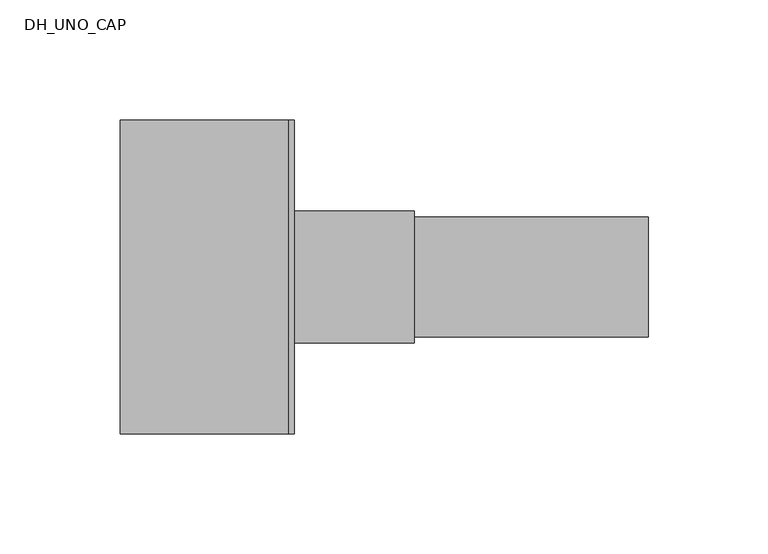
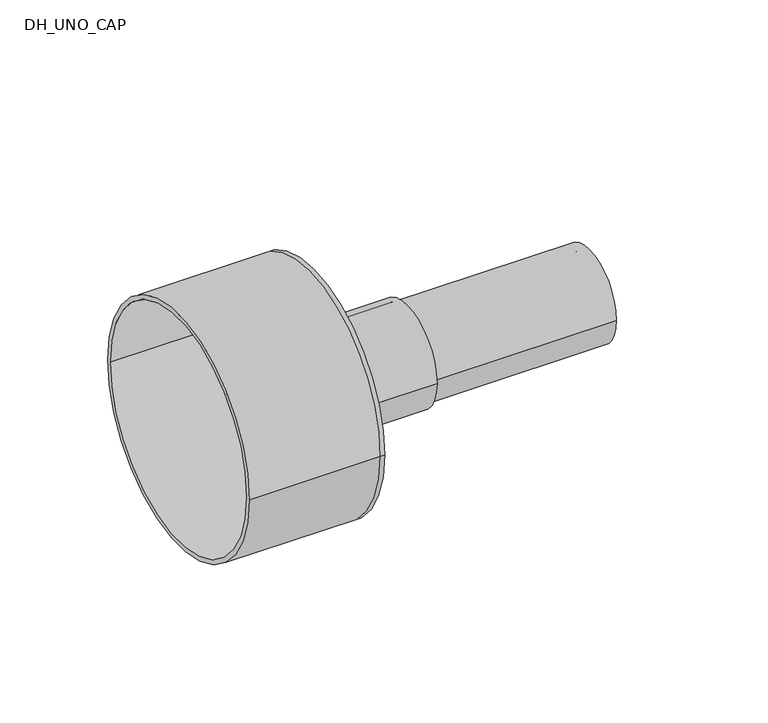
"""IFC4 building model written with IfcOpenShell, lengths in millimetres: pipe fitting geometry, DH_UNO_CAP : RAUTHERMEX UNO + 11 Heating - Rubber Cap."""

from ifc_helpers import new_model, si_unit, point, frame, origin, origin_2d, place, context, project, spatial, polyline, circle_curve, trimmed, segment, composite_curve, outline, extrude, source, transform, mapped, element, save
from ifc_brep_helpers import plane_surface, cylinder_surface, revolved_surface, advanced_brep


def dh_uno_cap_c55762d6(model_context):
    return source(origin(), model_context, "Body", "SolidModel", [
        extrude(outline(composite_curve([segment(trimmed(circle_curve(origin_2d(), 25.0), [point((-25.0, 0.0))], [point((25.0, 0.0))], False, "CARTESIAN"), True, "CONTINUOUS"), segment(trimmed(circle_curve(origin_2d(), 25.0), [point((25.0, 0.0))], [point((-25.0, 0.0))], False, "CARTESIAN"), True, "CONTINUOUS")], self_intersect=False), holes=[composite_curve([segment(trimmed(circle_curve(origin_2d(), 20.4), [point((-20.4, 0.0))], [point((20.4, 0.0))], True, "CARTESIAN"), True, "CONTINUOUS"), segment(trimmed(circle_curve(origin_2d(), 20.4), [point((20.4, 0.0))], [point((-20.4, 0.0))], True, "CARTESIAN"), True, "CONTINUOUS")], self_intersect=False)]), frame((0.0, 0.0, 0.0), z_axis=(1.0, 0.0, 0.0), x_axis=(0.0, 1.0, 0.0)), (0.0, 0.0, 1.0), 150.0),
        advanced_brep(
        [(-70.0, -65.5, 0.0), (-70.0, 65.5, 0.0), (-70.0, -63.0, 0.0), (-70.0, 63.0, 0.0), (0.0, -63.0, 0.0), (0.0, 63.0, 0.0), (0.0, -65.5, 0.0), (0.0, 65.5, 0.0), (0.0, 25.0, 0.0), (0.0, -25.0, 0.0), (2.5, -65.5, 0.0), (2.5, 65.5, 0.0), (2.5, -25.0, 0.0), (2.5, 25.0, 0.0)],
        [
            (0, 1, circle_curve(frame((-70.0, 0.0, 0.0), z_axis=(-1.0, 0.0, 0.0), x_axis=(0.0, 1.0, 0.0)), 65.5)),
            (1, 0, circle_curve(frame((-70.0, 0.0, 0.0), z_axis=(-1.0, 0.0, 0.0), x_axis=(0.0, 1.0, 0.0)), 65.5)),
            (2, 3, circle_curve(frame((-70.0, 0.0, 0.0), z_axis=(1.0, 0.0, 0.0), x_axis=(0.0, 1.0, 0.0)), 63.0)),
            (3, 2, circle_curve(frame((-70.0, 0.0, 0.0), z_axis=(1.0, 0.0, 0.0), x_axis=(0.0, 1.0, 0.0)), 63.0)),
            (2, 4),
            (4, 5, circle_curve(frame((0.0, 0.0, 0.0), z_axis=(1.0, 0.0, 0.0), x_axis=(0.0, 1.0, 0.0)), 63.0)),
            (5, 3),
            (5, 4, circle_curve(frame((0.0, 0.0, 0.0), z_axis=(1.0, 0.0, 0.0), x_axis=(0.0, 1.0, 0.0)), 63.0)),
            (0, 6),
            (6, 7, circle_curve(frame((0.0, 0.0, 0.0), z_axis=(-1.0, 0.0, 0.0), x_axis=(0.0, 1.0, 0.0)), 65.5)),
            (7, 1),
            (7, 6, circle_curve(frame((0.0, 0.0, 0.0), z_axis=(-1.0, 0.0, 0.0), x_axis=(0.0, 1.0, 0.0)), 65.5)),
            (8, 9, circle_curve(frame((0.0, 0.0, 0.0), z_axis=(1.0, 0.0, 0.0), x_axis=(0.0, 1.0, 0.0)), 25.0)),
            (9, 8, circle_curve(frame((0.0, 0.0, 0.0), z_axis=(1.0, 0.0, 0.0), x_axis=(0.0, 1.0, 0.0)), 25.0)),
            (10, 11, circle_curve(frame((2.5, 0.0, 0.0), z_axis=(1.0, 0.0, 0.0), x_axis=(0.0, 1.0, 0.0)), 65.5)),
            (11, 10, circle_curve(frame((2.5, 0.0, 0.0), z_axis=(1.0, 0.0, 0.0), x_axis=(0.0, 1.0, 0.0)), 65.5)),
            (12, 13, circle_curve(frame((2.5, 0.0, 0.0), z_axis=(-1.0, 0.0, 0.0), x_axis=(0.0, 1.0, 0.0)), 25.0)),
            (13, 12, circle_curve(frame((2.5, 0.0, 0.0), z_axis=(-1.0, 0.0, 0.0), x_axis=(0.0, 1.0, 0.0)), 25.0)),
            (11, 7),
            (6, 10),
            (8, 13),
            (12, 9),
        ],
        [
            plane_surface(frame((-70.0, 0.0, 0.0), z_axis=(-1.0, 0.0, 0.0), x_axis=(0.0, 0.0, 1.0))),
            revolved_surface(polyline([(0.0, 63.0, 0.0), (-70.0, 63.0, 0.0)]), (-70.0, 0.0, 0.0), (1.0, 0.0, 0.0)),
            cylinder_surface(frame((-70.0, 0.0, 0.0), z_axis=(-1.0, 0.0, 0.0), x_axis=(0.0, 1.0, 0.0)), 65.5),
            plane_surface(frame((0.0, 0.0, 0.0), z_axis=(-1.0, 0.0, 0.0), x_axis=(0.0, 0.0, 1.0))),
            plane_surface(frame((2.5, 0.0, 0.0), z_axis=(1.0, 0.0, 0.0), x_axis=(0.0, 0.0, 1.0))),
            cylinder_surface(frame((0.0, 0.0, 0.0), z_axis=(-1.0, 0.0, 0.0), x_axis=(0.0, 1.0, 0.0)), 65.5),
            revolved_surface(polyline([(0.0, 25.0, 0.0), (2.5, 25.0, 0.0)]), (0.0, 0.0, 0.0), (-1.0, 0.0, 0.0)),
        ],
        [
            (0, [[1, 2], [3, 4]]),
            (1, [[-3, 5, 6, 7]]),
            (1, [[-4, -7, 8, -5]]),
            (2, [[-1, 9, 10, 11]]),
            (2, [[-2, -11, 12, -9]]),
            (3, [[-6, -8], [13, 14]]),
            (4, [[15, 16], [17, 18]]),
            (5, [[-16, 19, -10, 20]]),
            (5, [[-15, -20, -12, -19]]),
            (6, [[21, -17, 22, -13]]),
            (6, [[-21, -14, -22, -18]]),
        ],
    ),
        extrude(outline(composite_curve([segment(trimmed(circle_curve(origin_2d(), 27.5), [point((-27.5, 0.0))], [point((27.5, 0.0))], False, "CARTESIAN"), True, "CONTINUOUS"), segment(trimmed(circle_curve(origin_2d(), 27.5), [point((27.5, 0.0))], [point((-27.5, 0.0))], False, "CARTESIAN"), True, "CONTINUOUS")], self_intersect=False), holes=[composite_curve([segment(trimmed(circle_curve(origin_2d(), 25.0), [point((-25.0, 0.0))], [point((25.0, 0.0))], True, "CARTESIAN"), True, "CONTINUOUS"), segment(trimmed(circle_curve(origin_2d(), 25.0), [point((25.0, 0.0))], [point((-25.0, 0.0))], True, "CARTESIAN"), True, "CONTINUOUS")], self_intersect=False)]), frame((2.5, 0.0, 0.0), z_axis=(1.0, 0.0, 0.0), x_axis=(0.0, 1.0, 0.0)), (0.0, 0.0, 1.0), 50.0),
    ])


if __name__ == "__main__":
    model = new_model("IFC4")
    model_context = context("Model", 3, world=origin())
    ifc_project = project(units=[si_unit("LENGTHUNIT", "METRE", prefix="MILLI")], contexts=[model_context])
    site = spatial("IfcSite", under=ifc_project)
    building = spatial("IfcBuilding", under=site)
    placement = place(None, origin())
    dh_uno_cap_shape = dh_uno_cap_c55762d6(model_context)
    element("IfcPipeFitting", 1, ObjectType="DH_UNO_CAP : RAUTHERMEX UNO + 11 Heating - Rubber Cap", at=placement, inside=building, context=model_context, shape_type="MappedRepresentation", body=[
        mapped(dh_uno_cap_shape, transform((0.0, 0.0, 0.0), x_axis=(1.0, 0.0, 0.0), y_axis=(0.0, 1.0, 0.0), z_axis=(0.0, 0.0, 1.0))),
    ])
    save(model, "model.ifc")
